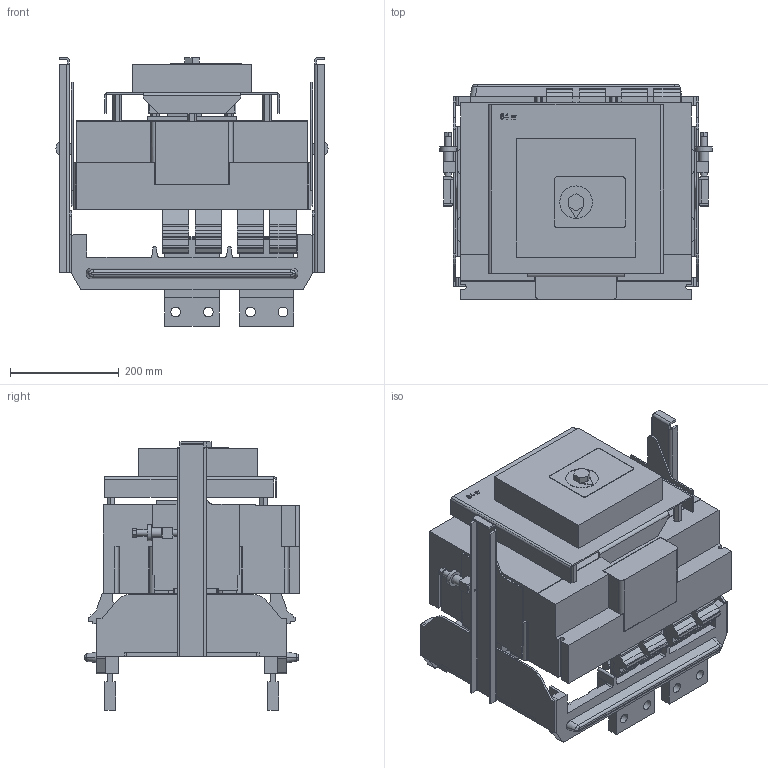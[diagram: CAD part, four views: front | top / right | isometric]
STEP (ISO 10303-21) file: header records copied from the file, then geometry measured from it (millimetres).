
FILE_DESCRIPTION (( 'STEP AP214' ), '1' );
FILE_NAME ('ÂÀ 53(55)-43 DC âûäâèæíîå èñïîëíåíèå ñ ýëåêòðîìàãíèòíûì ïðèâîäîì 1600À.STEP', '2023-02-09T06:49:42', ( '' ), ( '' ), 'SwSTEP 2.0', 'SolidWorks 2018', '' );
FILE_SCHEMA (( 'AUTOMOTIVE_DESIGN' ));
Length unit declared in the file: millimetre
Products named in the file (1): ÂÀ 53(55)-43 DC âûäâèæíîå èñïîëíåíèå ñ ýëåêòðîìàãíèòíûì ïðèâîäîì 1600À
Bounding box: 501 x 395.2 x 494.6 mm (x, y, z)
Volume: 34212759.1 mm3; surface area: 2316605.6 mm2
Topology: 2 solids, 2 shells, 1197 faces, 3572 edges, 2379 vertices
Faces by surface type: plane 891, cylinder 294, bspline 10, cone 2
Full cylindrical faces by diameter (mm): 12 x6, 12.2 x2, 13.2 x4, 18 x14, 30 x2, 60 x1
Entity records: 40481 total; most frequent: CARTESIAN_POINT 7842, ORIENTED_EDGE 7048, DIRECTION 6450, EDGE_CURVE 3524, VECTOR 2846, LINE 2846, VERTEX_POINT 2362, AXIS2_PLACEMENT_3D 1802
